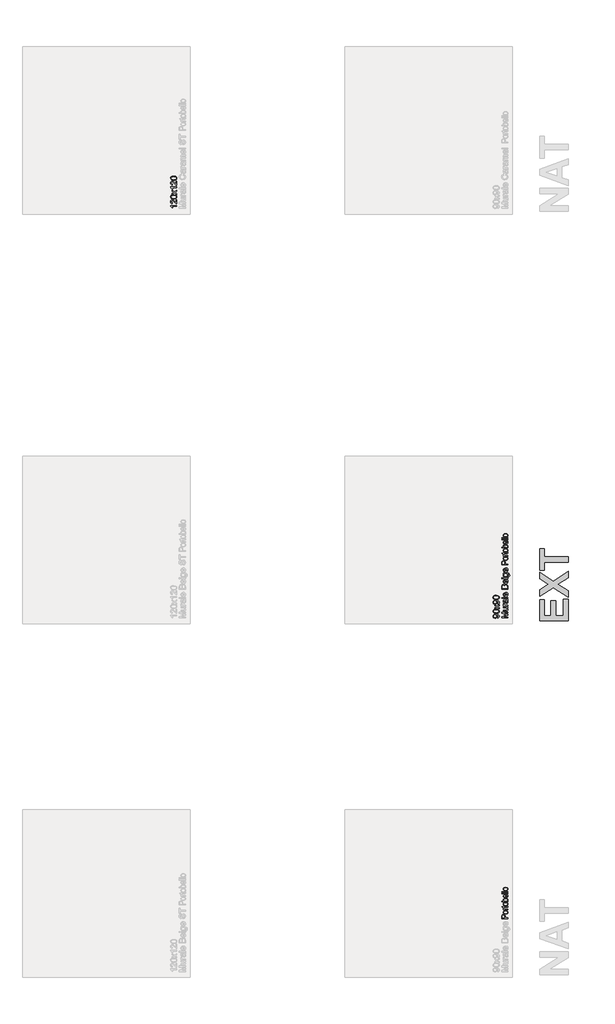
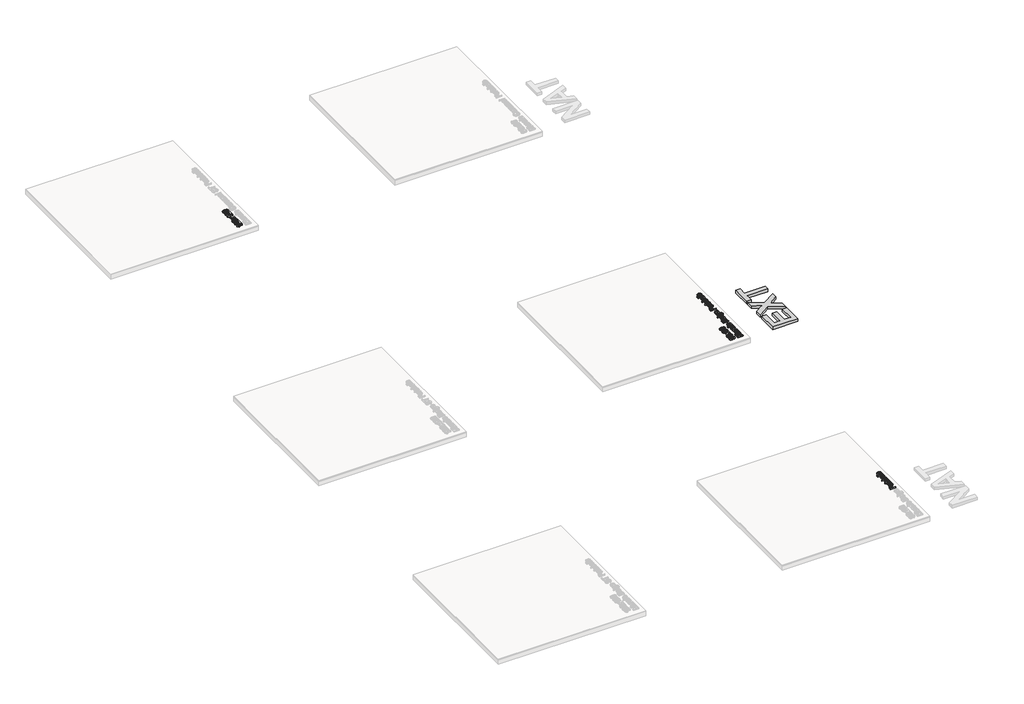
# One storey, part 15 of 21: 6 proxies.
"""IFC4 building model written with IfcOpenShell, lengths in millimetres."""

from ifc_helpers import new_model, si_unit, frame, origin, origin_with_axes, place, context, project, spatial, polyline, outline, extrude, element, save

model = new_model("IFC4")

# Units and contexts
model_context = context("Model", 3, world=origin())
ifc_project = project(units=[si_unit("LENGTHUNIT", "METRE", prefix="MILLI")], contexts=[model_context])

# Site, building, storey
site = spatial("IfcSite", under=ifc_project)
building = spatial("IfcBuilding", under=site)
storey = spatial("IfcBuildingStorey", under=building, Name="PORTOBELLO - SHOWROOM", Elevation=0.0)

# Proxies
placement = place(None, origin())
element("IfcBuildingElementProxy", 1, Name="10mm Arial", ObjectType="10mm Arial", at=placement, inside=storey, context=model_context, shape_type="SweptSolid", body=[
    extrude(outline(polyline([(28359.4625095, 22669.8696803), (28259.0061994, 22669.8696803), (28259.0061994, 22691.4030397), (28329.8112207, 22712.0044314), (28344.6000769, 22716.1737607), (28328.5849474, 22720.6619211), (28259.0061994, 22740.8709053), (28259.0061994, 22762.4778412), (28359.4625095, 22762.4778412), (28359.4625095, 22749.9208024), (28271.5632382, 22749.9208024), (28359.4625095, 22724.6840975), (28359.4625095, 22707.6879494), (28271.5632382, 22682.426719), (28359.4625095, 22682.426719), (28359.4625095, 22669.8696803)])), frame((0.0, 0.0, 18.0), z_axis=(0.0, 0.0, 1.0), x_axis=(1.0, 0.0, 0.0)), (0.0, 0.0, 1.0), 20.0),
    extrude(outline(polyline([(28359.4625095, 22829.9719246), (28346.7828434, 22829.9719246), (28357.4698154, 22820.1372126), (28361.0321394, 22807.3103937), (28358.5305418, 22795.5013816), (28352.2520224, 22787.3589268), (28343.0059216, 22783.6187932), (28331.3317996, 22782.8830292), (28285.6899068, 22782.8830292), (28285.6899068, 22795.4400679), (28325.4211622, 22795.4400679), (28338.2234557, 22796.2003574), (28345.7405111, 22801.1667643), (28348.4751006, 22810.5232297), (28345.6791974, 22821.0078666), (28338.0640401, 22827.9363109), (28324.0722616, 22829.9719246), (28285.6899068, 22829.9719246), (28285.6899068, 22842.5289633), (28359.4625095, 22842.5289633), (28359.4625095, 22829.9719246)])), frame((0.0, 0.0, 18.0), z_axis=(0.0, 0.0, 1.0), x_axis=(1.0, 0.0, 0.0)), (0.0, 0.0, 1.0), 20.0),
    extrude(outline(polyline([(28359.4625095, 22859.7948916), (28285.6899068, 22859.7948916), (28285.6899068, 22870.7823006), (28296.6037393, 22870.7823006), (28286.5482981, 22878.5813989), (28284.1202769, 22886.4295481), (28287.9953006, 22899.0356378), (28299.2524897, 22894.841783), (28296.6773157, 22886.0126152), (28299.1543878, 22878.9124927), (28306.0215184, 22874.3875441), (28320.6877472, 22872.3519304), (28359.4625095, 22872.3519304), (28359.4625095, 22859.7948916)])), frame((0.0, 0.0, 18.0), z_axis=(0.0, 0.0, 1.0), x_axis=(1.0, 0.0, 0.0)), (0.0, 0.0, 1.0), 20.0),
    extrude(outline(polyline([(28350.0447305, 22953.9726824), (28358.5550673, 22941.7957884), (28361.0321394, 22928.3435701), (28359.5422173, 22917.8497362), (28355.0724511, 22910.1088858), (28348.2850282, 22905.335617), (28339.8421365, 22903.7445273), (28329.9093226, 22906.148023), (28322.6988355, 22912.4633306), (28318.5785571, 22921.2557103), (28316.6900962, 22932.1204919), (28312.3736142, 22953.899106), (28309.577711, 22953.9726824), (28300.3070847, 22950.5145916), (28296.6773157, 22936.6331777), (28299.0930741, 22923.9289861), (28307.6647246, 22917.8711959), (28306.0950948, 22905.3141572), (28293.8323616, 22910.746548), (28286.6464, 22921.684906), (28284.1202769, 22938.2518585), (28286.3520944, 22953.4699103), (28291.9561634, 22962.0660863), (28300.478763, 22965.9165845), (28311.4661719, 22966.5297212), (28327.088894, 22966.5297212), (28348.9042963, 22967.1673833), (28359.4625095, 22969.6689809), (28359.4625095, 22957.1119421), (28350.0447305, 22953.9726824)]), holes=[polyline([(28324.9306529, 22953.9726824), (28328.7811511, 22933.7146472), (28330.8167648, 22922.9111793), (28334.1277028, 22918.0183487), (28338.9592197, 22916.3015661), (28345.7527738, 22920.0416997), (28348.4751006, 22931.0168459), (28345.470731, 22943.7210375), (28338.1989302, 22951.9125432), (28328.4868455, 22953.899106), (28324.9306529, 22953.9726824)])]), frame((0.0, 0.0, 18.0), z_axis=(0.0, 0.0, 1.0), x_axis=(1.0, 0.0, 0.0)), (0.0, 0.0, 1.0), 20.0),
    extrude(outline(polyline([(28359.4625095, 22983.7956495), (28259.0061994, 22983.7956495), (28259.0061994, 22996.3526882), (28359.4625095, 22996.3526882), (28359.4625095, 22983.7956495)])), frame((0.0, 0.0, 18.0), z_axis=(0.0, 0.0, 1.0), x_axis=(1.0, 0.0, 0.0)), (0.0, 0.0, 1.0), 20.0),
    extrude(outline(polyline([(28337.4876917, 23066.8388785), (28339.0573215, 23079.1506626), (28348.3340792, 23074.7146189), (28355.2686548, 23067.6359562), (28359.5912682, 23058.07409), (28361.0321394, 23046.1884359), (28358.5458702, 23031.454762), (28351.0870628, 23020.1178651), (28339.140095, 23012.8889839), (28323.1893448, 23010.4793569), (28306.7021001, 23012.9135094), (28294.3719219, 23020.215967), (28286.6831882, 23031.3995797), (28284.1202769, 23045.4771973), (28286.6770568, 23059.1164223), (28294.3473964, 23070.0149264), (28306.6530491, 23077.1610342), (28323.1157684, 23079.5430701), (28326.5002828, 23079.4694937), (28326.5002828, 23023.0363956), (28335.8996677, 23025.2099651), (28342.8097179, 23030.2591455), (28347.0587549, 23037.5462747), (28348.4751006, 23046.4336905), (28345.8508757, 23058.7454746), (28337.4876917, 23066.8388785)]), holes=[polyline([(28313.943244, 23023.0363956), (28313.943244, 23066.9860313), (28302.5634276, 23061.9583107), (28298.1488437, 23054.637459), (28296.6773157, 23045.4281464), (28301.3739425, 23029.9648399), (28306.8645813, 23025.0996005), (28313.943244, 23023.0363956)])]), frame((0.0, 0.0, 18.0), z_axis=(0.0, 0.0, 1.0), x_axis=(1.0, 0.0, 0.0)), (0.0, 0.0, 1.0), 20.0),
    extrude(outline(polyline([(28359.4625095, 23132.9104849), (28259.0061994, 23132.9104849), (28259.0061994, 23171.2437888), (28261.9615181, 23190.0180332), (28271.0482034, 23201.103544), (28283.8995477, 23205.1134578), (28295.6349834, 23201.7412062), (28304.5254649, 23191.5508749), (28313.8941931, 23203.9239727), (28329.5169151, 23208.2527175), (28343.0181843, 23205.2973988), (28352.6321672, 23197.9765471), (28357.7334642, 23187.0504518), (28359.4625095, 23170.9494832), (28359.4625095, 23132.9104849)]), holes=[polyline([(28299.8165754, 23145.4675236), (28299.8165754, 23168.3988347), (28298.7374549, 23181.7897393), (28294.089879, 23189.846355), (28285.910636, 23192.556419), (28277.7191302, 23190.030296), (28272.8753506, 23182.7952834), (28271.5632382, 23166.6575265), (28271.5632382, 23145.4675236), (28299.8165754, 23145.4675236)]), polyline([(28346.9054708, 23145.4675236), (28346.9054708, 23171.2192633), (28346.4149614, 23180.5389405), (28343.6803719, 23188.4238779), (28338.1008283, 23193.6478023), (28329.6395425, 23195.6956787), (28319.8784069, 23193.292183), (28314.0536086, 23185.5053474), (28312.3736142, 23169.99299), (28312.3736142, 23145.4675236), (28346.9054708, 23145.4675236)])]), frame((0.0, 0.0, 18.0), z_axis=(0.0, 0.0, 1.0), x_axis=(1.0, 0.0, 0.0)), (0.0, 0.0, 1.0), 20.0),
    extrude(outline(polyline([(28337.4876917, 23275.5996481), (28339.0573215, 23287.9114322), (28348.3340792, 23283.4753884), (28355.2686548, 23276.3967257), (28359.5912682, 23266.8348595), (28361.0321394, 23254.9492054), (28358.5458702, 23240.2155315), (28351.0870628, 23228.8786347), (28339.140095, 23221.6497535), (28323.1893448, 23219.2401264), (28306.7021001, 23221.6742789), (28294.3719219, 23228.9767365), (28286.6831882, 23240.1603492), (28284.1202769, 23254.2379669), (28286.6770568, 23267.8771918), (28294.3473964, 23278.7756959), (28306.6530491, 23285.9218037), (28323.1157684, 23288.3038396), (28326.5002828, 23288.2302632), (28326.5002828, 23231.7971652), (28335.8996677, 23233.9707346), (28342.8097179, 23239.019915), (28347.0587549, 23246.3070442), (28348.4751006, 23255.1944601), (28345.8508757, 23267.5062442), (28337.4876917, 23275.5996481)]), holes=[polyline([(28313.943244, 23231.7971652), (28313.943244, 23275.7468008), (28302.5634276, 23270.7190802), (28298.1488437, 23263.3982285), (28296.6773157, 23254.1889159), (28301.3739425, 23238.7256094), (28306.8645813, 23233.86037), (28313.943244, 23231.7971652)])]), frame((0.0, 0.0, 18.0), z_axis=(0.0, 0.0, 1.0), x_axis=(1.0, 0.0, 0.0)), (0.0, 0.0, 1.0), 20.0),
    extrude(outline(polyline([(28271.5632382, 23300.8608784), (28259.0061994, 23300.8608784), (28259.0061994, 23313.4179172), (28271.5632382, 23313.4179172), (28271.5632382, 23300.8608784)])), frame((0.0, 0.0, 18.0), z_axis=(0.0, 0.0, 1.0), x_axis=(1.0, 0.0, 0.0)), (0.0, 0.0, 1.0), 20.0),
    extrude(outline(polyline([(28359.4625095, 23300.8608784), (28285.6899068, 23300.8608784), (28285.6899068, 23313.4179172), (28359.4625095, 23313.4179172), (28359.4625095, 23300.8608784)])), frame((0.0, 0.0, 18.0), z_axis=(0.0, 0.0, 1.0), x_axis=(1.0, 0.0, 0.0)), (0.0, 0.0, 1.0), 20.0),
    extrude(outline(polyline([(28365.7410289, 23329.1142156), (28367.3106588, 23341.6712544), (28373.9325347, 23345.7424818), (28376.7284378, 23357.9316386), (28373.5646527, 23370.7829829), (28364.6864339, 23376.9143495), (28350.0447305, 23377.7727408), (28357.1080648, 23368.9313102), (28359.4625095, 23358.1523678), (28356.7217887, 23345.2059872), (28348.4996261, 23335.5521505), (28336.4453594, 23329.546477), (28322.2083262, 23327.5445858), (28302.7473686, 23331.1375666), (28288.9763193, 23341.5363643), (28284.1202769, 23357.5392311), (28286.8671292, 23368.7412379), (28295.1076858, 23377.7727408), (28285.6899068, 23377.7727408), (28285.6899068, 23390.3297796), (28349.3825429, 23390.3297796), (28373.7731191, 23386.8962143), (28385.1161473, 23376.01917), (28389.2854766, 23357.6863839), (28387.8170143, 23346.0030649), (28383.4116274, 23336.8029493), (28376.0570532, 23330.901509), (28365.7410289, 23329.1142156)]), holes=[polyline([(28321.3499348, 23340.1016245), (28332.867707, 23341.4413281), (28340.7863669, 23345.4604389), (28345.3756948, 23351.5029007), (28346.9054708, 23358.9126572), (28345.3848919, 23366.2672314), (28340.8231551, 23372.34035), (28333.0056627, 23376.4146431), (28321.7178168, 23377.7727408), (28310.8315755, 23376.3747893), (28302.9926233, 23372.1809345), (28298.2561426, 23366.0189111), (28296.6773157, 23358.7164535), (28298.2316171, 23351.5458203), (28302.8945214, 23345.5340153), (28310.6169776, 23341.4597222), (28321.3499348, 23340.1016245)])]), frame((0.0, 0.0, 18.0), z_axis=(0.0, 0.0, 1.0), x_axis=(1.0, 0.0, 0.0)), (0.0, 0.0, 1.0), 20.0),
    extrude(outline(polyline([(28337.4876917, 23460.8159699), (28339.0573215, 23473.127754), (28348.3340792, 23468.6917103), (28355.2686548, 23461.6130475), (28359.5912682, 23452.0511814), (28361.0321394, 23440.1655272), (28358.5458702, 23425.4318533), (28351.0870628, 23414.0949565), (28339.140095, 23406.8660753), (28323.1893448, 23404.4564482), (28306.7021001, 23406.8906008), (28294.3719219, 23414.1930584), (28286.6831882, 23425.376671), (28284.1202769, 23439.4542887), (28286.6770568, 23453.0935137), (28294.3473964, 23463.9920178), (28306.6530491, 23471.1381255), (28323.1157684, 23473.5201615), (28326.5002828, 23473.4465851), (28326.5002828, 23417.013487), (28335.8996677, 23419.1870565), (28342.8097179, 23424.2362368), (28347.0587549, 23431.523366), (28348.4751006, 23440.4107819), (28345.8508757, 23452.722566), (28337.4876917, 23460.8159699)]), holes=[polyline([(28313.943244, 23417.013487), (28313.943244, 23460.9631227), (28302.5634276, 23455.9354021), (28298.1488437, 23448.6145504), (28296.6773157, 23439.4052378), (28301.3739425, 23423.9419312), (28306.8645813, 23419.0766919), (28313.943244, 23417.013487)])]), frame((0.0, 0.0, 18.0), z_axis=(0.0, 0.0, 1.0), x_axis=(1.0, 0.0, 0.0)), (0.0, 0.0, 1.0), 20.0),
])
element("IfcBuildingElementProxy", 2, Name="10mm Arial", ObjectType="10mm Arial", at=placement, inside=storey, context=model_context, shape_type="SweptSolid", body=[
    extrude(outline(polyline([(28194.348432, 22666.7304206), (28192.7788021, 22679.2874593), (28204.7594925, 22684.9283166), (28208.4751006, 22695.6214199), (28206.0838676, 22705.7872257), (28199.6949837, 22712.6788818), (28188.7811511, 22716.7868974), (28174.2130241, 22718.6017819), (28171.7604775, 22718.5282055), (28181.2763584, 22708.485027), (28184.9306529, 22694.7139777), (28182.6988355, 22683.2636506), (28176.0033832, 22673.7324412), (28165.6597677, 22667.3037033), (28152.4834609, 22665.1607907), (28138.8718271, 22667.4079366), (28128.2032493, 22674.1493741), (28121.3054619, 22684.2753261), (28119.0061994, 22696.676015), (28124.2546492, 22714.5673427), (28139.2151837, 22726.8791268), (28167.3213681, 22731.0852443), (28197.8187855, 22726.8913895), (28207.8098473, 22721.6766622), (28215.0969765, 22714.4201899), (28219.5483487, 22705.4346721), (28221.0321394, 22695.0328087), (28219.2816342, 22684.2967858), (28214.0301187, 22675.7312667), (28205.6086867, 22669.7409216), (28194.348432, 22666.7304206)]), holes=[polyline([(28152.1891553, 22718.5282055), (28143.6788185, 22717.1731735), (28137.130519, 22713.1080774), (28132.9550584, 22706.7989012), (28131.5632382, 22698.7116287), (28133.0623573, 22690.3239192), (28137.5597147, 22683.6039414), (28144.4421737, 22679.1893575), (28153.0965976, 22677.7178295), (28160.855842, 22679.1096497), (28167.0147998, 22683.2851103), (28171.0339106, 22689.8395412), (28172.3736142, 22698.3682722), (28167.0147998, 22712.85056), (28160.6289815, 22717.1087941), (28152.1891553, 22718.5282055)])]), frame((0.0, 0.0, 18.0), z_axis=(0.0, 0.0, 1.0), x_axis=(1.0, 0.0, 0.0)), (0.0, 0.0, 1.0), 20.0),
    extrude(outline(polyline([(28170.0436948, 22742.0726532), (28141.1404328, 22745.7637359), (28124.4753784, 22756.7266193), (28119.0061994, 22775.0348799), (28122.2435609, 22789.7011088), (28131.5755009, 22799.8301264), (28146.4379335, 22805.7162383), (28170.0436948, 22807.9971067), (28198.8243296, 22804.3428122), (28215.5261722, 22793.416717), (28219.6556476, 22785.1853573), (28221.0321394, 22775.0348799), (28218.6409064, 22761.9873319), (28211.4672075, 22752.0790434), (28194.4771907, 22744.5742507), (28170.0436948, 22742.0726532)]), holes=[polyline([(28170.0191694, 22754.6296919), (28189.7713668, 22756.1012199), (28201.2032998, 22760.5158039), (28206.6571504, 22767.0886289), (28208.4751006, 22775.0348799), (28206.6510191, 22782.981131), (28201.1787744, 22789.553956), (28189.74071, 22793.96854), (28170.0191694, 22795.4400679), (28150.711496, 22794.0175909), (28139.1906582, 22789.7501598), (28133.4700932, 22783.1895975), (28131.5632382, 22774.8877271), (28133.2432326, 22767.0273152), (28138.2832159, 22760.7120076), (28150.5214236, 22756.1502709), (28170.0191694, 22754.6296919)])]), frame((0.0, 0.0, 18.0), z_axis=(0.0, 0.0, 1.0), x_axis=(1.0, 0.0, 0.0)), (0.0, 0.0, 1.0), 20.0),
    extrude(outline(polyline([(28219.4625095, 22814.2756261), (28182.355479, 22841.1064863), (28145.6899068, 22815.8452559), (28145.6899068, 22830.9038923), (28163.372768, 22843.0930491), (28171.6869011, 22848.8074827), (28164.8688214, 22853.7616269), (28145.6899068, 22867.6430409), (28145.6899068, 22882.7507281), (28182.3800044, 22856.2141735), (28219.4625095, 22881.7697095), (28219.4625095, 22866.6865477), (28197.1443352, 22851.2845548), (28193.0485823, 22848.4886516), (28219.4625095, 22829.3833134), (28219.4625095, 22814.2756261)])), frame((0.0, 0.0, 18.0), z_axis=(0.0, 0.0, 1.0), x_axis=(1.0, 0.0, 0.0)), (0.0, 0.0, 1.0), 20.0),
    extrude(outline(polyline([(28194.348432, 22891.1874886), (28192.7788021, 22903.7445273), (28204.7594925, 22909.3853846), (28208.4751006, 22920.0784879), (28206.0838676, 22930.2442937), (28199.6949837, 22937.1359498), (28188.7811511, 22941.2439654), (28174.2130241, 22943.0588499), (28171.7604775, 22942.9852735), (28181.2763584, 22932.942095), (28184.9306529, 22919.1710457), (28182.6988355, 22907.7207186), (28176.0033832, 22898.1895092), (28165.6597677, 22891.7607713), (28152.4834609, 22889.6178587), (28138.8718271, 22891.8650046), (28128.2032493, 22898.6064421), (28121.3054619, 22908.732394), (28119.0061994, 22921.133083), (28124.2546492, 22939.0244107), (28139.2151837, 22951.3361948), (28167.3213681, 22955.5423122), (28197.8187855, 22951.3484575), (28207.8098473, 22946.1337302), (28215.0969765, 22938.8772579), (28219.5483487, 22929.8917401), (28221.0321394, 22919.4898767), (28219.2816342, 22908.7538538), (28214.0301187, 22900.1883347), (28205.6086867, 22894.1979896), (28194.348432, 22891.1874886)]), holes=[polyline([(28152.1891553, 22942.9852735), (28143.6788185, 22941.6302415), (28137.130519, 22937.5651454), (28132.9550584, 22931.2559692), (28131.5632382, 22923.1686967), (28133.0623573, 22914.7809872), (28137.5597147, 22908.0610094), (28144.4421737, 22903.6464255), (28153.0965976, 22902.1748975), (28160.855842, 22903.5667177), (28167.0147998, 22907.7421783), (28171.0339106, 22914.2966092), (28172.3736142, 22922.8253401), (28167.0147998, 22937.307628), (28160.6289815, 22941.5658621), (28152.1891553, 22942.9852735)])]), frame((0.0, 0.0, 18.0), z_axis=(0.0, 0.0, 1.0), x_axis=(1.0, 0.0, 0.0)), (0.0, 0.0, 1.0), 20.0),
    extrude(outline(polyline([(28170.0436948, 22966.5297212), (28141.1404328, 22970.2208039), (28124.4753784, 22981.1836873), (28119.0061994, 22999.4919479), (28122.2435609, 23014.1581768), (28131.5755009, 23024.2871944), (28146.4379335, 23030.1733063), (28170.0436948, 23032.4541747), (28198.8243296, 23028.7998802), (28215.5261722, 23017.873785), (28219.6556476, 23009.6424253), (28221.0321394, 22999.4919479), (28218.6409064, 22986.4443998), (28211.4672075, 22976.5361114), (28194.4771907, 22969.0313187), (28170.0436948, 22966.5297212)]), holes=[polyline([(28170.0191694, 22979.0867599), (28189.7713668, 22980.5582879), (28201.2032998, 22984.9728719), (28206.6571504, 22991.5456968), (28208.4751006, 22999.4919479), (28206.6510191, 23007.438199), (28201.1787744, 23014.011024), (28189.74071, 23018.425608), (28170.0191694, 23019.8971359), (28150.711496, 23018.4746589), (28139.1906582, 23014.2072277), (28133.4700932, 23007.6466655), (28131.5632382, 22999.3447951), (28133.2432326, 22991.4843832), (28138.2832159, 22985.1690756), (28150.5214236, 22980.6073389), (28170.0191694, 22979.0867599)])]), frame((0.0, 0.0, 18.0), z_axis=(0.0, 0.0, 1.0), x_axis=(1.0, 0.0, 0.0)), (0.0, 0.0, 1.0), 20.0),
])
element("IfcBuildingElementProxy", 3, Name="10mm Arial", ObjectType="10mm Arial", at=placement, inside=storey, context=model_context, shape_type="SweptSolid", body=[
    extrude(outline(polyline([(23019.4374935, 29312.2496861), (23019.4374935, 29299.6926473), (22941.1522049, 29299.6926473), (22949.6257535, 29287.7977962), (22955.9655865, 29274.5785698), (22944.0952608, 29274.5785698), (22932.3475625, 29292.9849323), (22918.9811833, 29304.1562822), (22918.9811833, 29312.2496861), (23019.4374935, 29312.2496861)])), frame((0.0, 0.0, 17.0), z_axis=(0.0, 0.0, 1.0), x_axis=(1.0, 0.0, 0.0)), (0.0, 0.0, 1.0), 20.0),
    extrude(outline(polyline([(23006.8804547, 29406.4274769), (23019.4374935, 29406.4274769), (23019.4374935, 29340.5030233), (23010.7800038, 29341.851924), (22997.4504129, 29349.4916067), (22982.8945486, 29365.2246934), (22961.9743258, 29386.8929429), (22947.7495553, 29392.3008083), (22936.2348489, 29387.1872485), (22931.5382221, 29373.8331321), (22936.1244843, 29359.9149299), (22948.8041504, 29354.6296919), (22947.2345205, 29342.0726532), (22935.0882833, 29345.1168767), (22926.2161959, 29351.6988987), (22920.7899364, 29361.4753627), (22918.9811833, 29374.1029122), (22920.9922715, 29386.8224322), (22927.0255363, 29396.5805021), (22936.0386451, 29402.7885108), (22946.9892659, 29404.857847), (22958.8963798, 29402.6260296), (22971.2081639, 29395.207076), (22988.4127785, 29377.2176465), (23000.4915707, 29362.7721468), (23006.8804547, 29357.106764), (23006.8804547, 29406.4274769)])), frame((0.0, 0.0, 17.0), z_axis=(0.0, 0.0, 1.0), x_axis=(1.0, 0.0, 0.0)), (0.0, 0.0, 1.0), 20.0),
    extrude(outline(polyline([(22970.0186788, 29418.9845156), (22941.1154167, 29422.6755983), (22924.4503623, 29433.6384818), (22918.9811833, 29451.9467424), (22922.2185449, 29466.6129713), (22931.5504848, 29476.7419889), (22946.4129174, 29482.6281008), (22970.0186788, 29484.9089692), (22998.7993135, 29481.2546747), (23015.5011561, 29470.3285794), (23019.6306315, 29462.0972198), (23021.0071233, 29451.9467424), (23018.6158903, 29438.8991943), (23011.4421914, 29428.9909059), (22994.4521746, 29421.4861132), (22970.0186788, 29418.9845156)]), holes=[polyline([(22969.9941533, 29431.5415544), (22989.7463508, 29433.0130824), (23001.1782838, 29437.4276663), (23006.6321343, 29444.0004913), (23008.4500845, 29451.9467424), (23006.626003, 29459.8929935), (23001.1537583, 29466.4658185), (22989.7156939, 29470.8804024), (22969.9941533, 29472.3519304), (22950.6864799, 29470.9294534), (22939.1656421, 29466.6620222), (22933.4450771, 29460.10146), (22931.5382221, 29451.7995896), (22933.2182165, 29443.9391776), (22938.2581998, 29437.6238701), (22950.4964076, 29433.0621333), (22969.9941533, 29431.5415544)])]), frame((0.0, 0.0, 17.0), z_axis=(0.0, 0.0, 1.0), x_axis=(1.0, 0.0, 0.0)), (0.0, 0.0, 1.0), 20.0),
    extrude(outline(polyline([(23019.4374935, 29491.1874886), (22982.3304629, 29518.0183487), (22945.6648907, 29492.7571184), (22945.6648907, 29507.8157547), (22963.3477519, 29520.0049115), (22971.661885, 29525.7193452), (22964.8438054, 29530.6734894), (22945.6648907, 29544.5549033), (22945.6648907, 29559.6625906), (22982.3549883, 29533.126036), (23019.4374935, 29558.6815719), (23019.4374935, 29543.5984101), (22997.1193191, 29528.1964173), (22993.0235662, 29525.4005141), (23019.4374935, 29506.2951758), (23019.4374935, 29491.1874886)])), frame((0.0, 0.0, 17.0), z_axis=(0.0, 0.0, 1.0), x_axis=(1.0, 0.0, 0.0)), (0.0, 0.0, 1.0), 20.0),
    extrude(outline(polyline([(23019.4374935, 29613.6186166), (23019.4374935, 29601.0615778), (22941.1522049, 29601.0615778), (22949.6257535, 29589.1667266), (22955.9655865, 29575.9475002), (22944.0952608, 29575.9475002), (22932.3475625, 29594.3538627), (22918.9811833, 29605.5252127), (22918.9811833, 29613.6186166), (23019.4374935, 29613.6186166)])), frame((0.0, 0.0, 17.0), z_axis=(0.0, 0.0, 1.0), x_axis=(1.0, 0.0, 0.0)), (0.0, 0.0, 1.0), 20.0),
    extrude(outline(polyline([(23006.8804547, 29707.7964073), (23019.4374935, 29707.7964073), (23019.4374935, 29641.8719538), (23010.7800038, 29643.2208544), (22997.4504129, 29650.8605372), (22982.8945486, 29666.5936239), (22961.9743258, 29688.2618734), (22947.7495553, 29693.6697387), (22936.2348489, 29688.556179), (22931.5382221, 29675.2020625), (22936.1244843, 29661.2838604), (22948.8041504, 29655.9986224), (22947.2345205, 29643.4415836), (22935.0882833, 29646.4858071), (22926.2161959, 29653.0678292), (22920.7899364, 29662.8442932), (22918.9811833, 29675.4718427), (22920.9922715, 29688.1913627), (22927.0255363, 29697.9494326), (22936.0386451, 29704.1574412), (22946.9892659, 29706.2267775), (22958.8963798, 29703.99496), (22971.2081639, 29696.5760065), (22988.4127785, 29678.5865769), (23000.4915707, 29664.1410772), (23006.8804547, 29658.4756945), (23006.8804547, 29707.7964073)])), frame((0.0, 0.0, 17.0), z_axis=(0.0, 0.0, 1.0), x_axis=(1.0, 0.0, 0.0)), (0.0, 0.0, 1.0), 20.0),
    extrude(outline(polyline([(22970.0186788, 29720.3534461), (22941.1154167, 29724.0445288), (22924.4503623, 29735.0074122), (22918.9811833, 29753.3156729), (22922.2185449, 29767.9819017), (22931.5504848, 29778.1109193), (22946.4129174, 29783.9970313), (22970.0186788, 29786.2778996), (22998.7993135, 29782.6236051), (23015.5011561, 29771.6975099), (23019.6306315, 29763.4661502), (23021.0071233, 29753.3156729), (23018.6158903, 29740.2681248), (23011.4421914, 29730.3598364), (22994.4521746, 29722.8550437), (22970.0186788, 29720.3534461)]), holes=[polyline([(22969.9941533, 29732.9104849), (22989.7463508, 29734.3820128), (23001.1782838, 29738.7965968), (23006.6321343, 29745.3694218), (23008.4500845, 29753.3156729), (23006.626003, 29761.2619239), (23001.1537583, 29767.8347489), (22989.7156939, 29772.2493329), (22969.9941533, 29773.7208609), (22950.6864799, 29772.2983838), (22939.1656421, 29768.0309527), (22933.4450771, 29761.4703904), (22931.5382221, 29753.1685201), (22933.2182165, 29745.3081081), (22938.2581998, 29738.9928005), (22950.4964076, 29734.4310638), (22969.9941533, 29732.9104849)])]), frame((0.0, 0.0, 17.0), z_axis=(0.0, 0.0, 1.0), x_axis=(1.0, 0.0, 0.0)), (0.0, 0.0, 1.0), 20.0),
])
element("IfcBuildingElementProxy", 4, Name="10mm Arial Narrow", ObjectType="10mm Arial Narrow", at=placement, inside=storey, context=model_context, shape_type="SweptSolid", body=[
    extrude(outline(polyline([(28359.4625095, 17824.588476), (28258.7439058, 17824.588476), (28258.7439058, 17855.8853607), (28260.6222265, 17872.1810622), (28270.1026697, 17883.6540483), (28287.1217785, 17887.9437267), (28299.197604, 17886.1574183), (28308.8239978, 17880.7984931), (28315.1252562, 17871.0547043), (28317.2256757, 17856.1138051), (28317.2256757, 17834.3354376), (28359.4625095, 17834.3354376), (28359.4625095, 17824.588476)]), holes=[polyline([(28305.8542204, 17834.3354376), (28305.8542204, 17857.3067926), (28301.3234062, 17873.170988), (28287.6548155, 17878.1967651), (28277.4890391, 17875.7219506), (28271.6890892, 17869.7443218), (28270.115361, 17857.0783482), (28270.115361, 17834.3354376), (28305.8542204, 17834.3354376)])]), frame((0.0, 0.0, 18.0), z_axis=(0.0, 0.0, 1.0), x_axis=(1.0, 0.0, 0.0)), (0.0, 0.0, 1.0), 20.0),
    extrude(outline(polyline([(28322.9114033, 17896.0661948), (28306.3206278, 17898.0206637), (28294.368543, 17903.8840703), (28287.1439884, 17912.742637), (28284.7358035, 17923.6825861), (28287.1439884, 17934.4956217), (28294.368543, 17943.3795711), (28306.1302574, 17949.3191259), (28322.149922, 17951.2989775), (28339.3118085, 17949.3540271), (28351.4542637, 17943.5191761), (28358.6788183, 17934.6701279), (28361.0870031, 17923.6825861), (28358.6724726, 17912.821958), (28351.428881, 17903.9475271), (28339.4704505, 17898.0365278), (28322.9114033, 17896.0661948)]), holes=[polyline([(28322.8860206, 17905.8131564), (28335.437772, 17907.1171933), (28344.3090301, 17911.0293039), (28349.5822886, 17916.8705006), (28351.3400415, 17923.961796), (28349.5664244, 17930.6818691), (28344.2455733, 17936.3739424), (28335.358451, 17940.2574975), (28322.8860206, 17941.5520158), (28310.3723433, 17940.247979), (28301.5137766, 17936.3358684), (28296.240518, 17930.4946716), (28294.4827652, 17923.4033763), (28296.2500365, 17916.6357105), (28301.5518506, 17910.9531557), (28310.4199359, 17907.0981563), (28322.8860206, 17905.8131564)])]), frame((0.0, 0.0, 18.0), z_axis=(0.0, 0.0, 1.0), x_axis=(1.0, 0.0, 0.0)), (0.0, 0.0, 1.0), 20.0),
    extrude(outline(polyline([(28351.3400415, 18022.7766963), (28361.0870031, 18024.4011899), (28361.0870031, 18017.0402032), (28358.9675466, 18008.7654389), (28353.1675968, 18004.4503777), (28338.5217716, 18003.282773), (28296.1072588, 18003.282773), (28296.1072588, 17995.1603049), (28292.8582716, 17995.1603049), (28297.7317524, 17993.5358113), (28296.1072588, 17985.9717629), (28298.429777, 17979.8926033), (28304.9150601, 17976.0217396), (28320.3223666, 17974.041888), (28359.4625095, 17974.041888), (28359.4625095, 17964.2949264), (28286.3602971, 17964.2949264), (28286.3602971, 17974.041888), (28296.0564934, 17974.041888), (28286.9694822, 17980.2860353), (28284.7358035, 17986.6824789), (28286.3602971, 17995.1603049), (28286.3602971, 18003.282773), (28270.115361, 18003.282773), (28261.992893, 18013.0297346), (28286.3602971, 18013.0297346), (28286.3602971, 18022.7766963), (28296.1072588, 18022.7766963), (28296.1072588, 18013.0297346), (28340.7554503, 18013.0297346), (28348.7510048, 18013.8927468), (28351.3400415, 18018.5124006), (28351.3400415, 18022.7766963)])), frame((0.0, 0.0, 18.0), z_axis=(0.0, 0.0, 1.0), x_axis=(1.0, 0.0, 0.0)), (0.0, 0.0, 1.0), 20.0),
    extrude(outline(polyline([(28322.9114033, 18029.2746707), (28306.3206278, 18031.2291396), (28294.368543, 18037.0925462), (28287.1439884, 18045.9511129), (28284.7358035, 18056.8910621), (28287.1439884, 18067.7040976), (28294.368543, 18076.5880471), (28306.1302574, 18082.5276018), (28322.149922, 18084.5074534), (28339.3118085, 18082.5625031), (28351.4542637, 18076.727652), (28358.6788183, 18067.8786038), (28361.0870031, 18056.8910621), (28358.6724726, 18046.0304339), (28351.428881, 18037.156003), (28339.4704505, 18031.2450038), (28322.9114033, 18029.2746707)]), holes=[polyline([(28322.8860206, 18039.0216324), (28335.437772, 18040.3256692), (28344.3090301, 18044.2377798), (28349.5822886, 18050.0789766), (28351.3400415, 18057.1702719), (28349.5664244, 18063.8903451), (28344.2455733, 18069.5824184), (28335.358451, 18073.4659734), (28322.8860206, 18074.7604918), (28310.3723433, 18073.4564549), (28301.5137766, 18069.5443443), (28296.240518, 18063.7031476), (28294.4827652, 18056.6118522), (28296.2500365, 18049.8441865), (28301.5518506, 18044.1616317), (28310.4199359, 18040.3066322), (28322.8860206, 18039.0216324)])]), frame((0.0, 0.0, 18.0), z_axis=(0.0, 0.0, 1.0), x_axis=(1.0, 0.0, 0.0)), (0.0, 0.0, 1.0), 20.0),
    extrude(outline(polyline([(28359.4625095, 18107.2503639), (28359.4625095, 18097.5034023), (28258.7439058, 18097.5034023), (28258.7439058, 18107.2503639), (28294.1527899, 18107.2503639), (28287.0710131, 18114.6494247), (28284.7358035, 18123.850658), (28288.9366425, 18136.7323847), (28301.6660729, 18146.0097661), (28322.3529837, 18149.4871978), (28338.8073271, 18147.5549388), (28351.0100662, 18141.7581618), (28358.5677689, 18133.3850394), (28361.0870031, 18123.7237444), (28358.4725837, 18114.3829062), (28350.7054737, 18107.2503639), (28359.4625095, 18107.2503639)]), holes=[polyline([(28322.3529837, 18107.2503639), (28339.6005369, 18109.3317464), (28348.33219, 18115.2205357), (28351.3400415, 18123.672979), (28349.5505602, 18129.6157066), (28344.1821165, 18134.8540639), (28322.7591071, 18139.7402361), (28301.3234062, 18135.0317429), (28296.1929254, 18129.7870399), (28294.4827652, 18123.4699173), (28296.2722464, 18117.4922885), (28301.6406901, 18112.1999929), (28322.3529837, 18107.2503639)])]), frame((0.0, 0.0, 18.0), z_axis=(0.0, 0.0, 1.0), x_axis=(1.0, 0.0, 0.0)), (0.0, 0.0, 1.0), 20.0),
    extrude(outline(polyline([(28336.719599, 18201.4709933), (28338.3440926, 18211.2179549), (28348.2306592, 18207.5184245), (28355.3505101, 18201.6994377), (28359.6528799, 18193.9957844), (28361.0870031, 18184.6422548), (28358.6724726, 18173.0487008), (28351.428881, 18163.9045785), (28339.6227468, 18157.9650238), (28323.5205884, 18155.9851722), (28306.8536647, 18157.9745423), (28294.6731355, 18163.9426526), (28287.2201365, 18172.9566884), (28284.7358035, 18184.0838351), (28287.1344699, 18194.7667843), (28294.3304689, 18203.5143016), (28306.0699735, 18209.3491527), (28322.0991565, 18211.294103), (28325.3481437, 18211.2179549), (28325.3481437, 18165.7321339), (28344.7913016, 18171.7351454), (28349.7028565, 18177.6651816), (28351.3400415, 18184.7691683), (28347.6849309, 18194.9476361), (28336.719599, 18201.4709933)]), holes=[polyline([(28315.6011821, 18166.3920844), (28315.6011821, 18201.4709933), (28301.3360976, 18197.2066975), (28296.1960983, 18191.381365), (28294.4827652, 18184.1599832), (28300.1938755, 18171.9508985), (28315.6011821, 18166.3920844)])]), frame((0.0, 0.0, 18.0), z_axis=(0.0, 0.0, 1.0), x_axis=(1.0, 0.0, 0.0)), (0.0, 0.0, 1.0), 20.0),
    extrude(outline(polyline([(28359.4625095, 18224.2139038), (28258.7439058, 18224.2139038), (28258.7439058, 18233.9608654), (28359.4625095, 18233.9608654), (28359.4625095, 18224.2139038)])), frame((0.0, 0.0, 18.0), z_axis=(0.0, 0.0, 1.0), x_axis=(1.0, 0.0, 0.0)), (0.0, 0.0, 1.0), 20.0),
    extrude(outline(polyline([(28359.4625095, 18250.2058015), (28258.7439058, 18250.2058015), (28258.7439058, 18259.9527632), (28359.4625095, 18259.9527632), (28359.4625095, 18250.2058015)])), frame((0.0, 0.0, 18.0), z_axis=(0.0, 0.0, 1.0), x_axis=(1.0, 0.0, 0.0)), (0.0, 0.0, 1.0), 20.0),
    extrude(outline(polyline([(28322.9114033, 18271.3242184), (28306.3206278, 18273.2786873), (28294.368543, 18279.1420939), (28287.1439884, 18288.0006606), (28284.7358035, 18298.9406098), (28287.1439884, 18309.7536454), (28294.368543, 18318.6375948), (28306.1302574, 18324.5771496), (28322.149922, 18326.5570011), (28339.3118085, 18324.6120508), (28351.4542637, 18318.7771997), (28358.6788183, 18309.9281515), (28361.0870031, 18298.9406098), (28358.6724726, 18288.0799816), (28351.428881, 18279.2055507), (28339.4704505, 18273.2945515), (28322.9114033, 18271.3242184)]), holes=[polyline([(28322.8860206, 18281.0711801), (28335.437772, 18282.375217), (28344.3090301, 18286.2873275), (28349.5822886, 18292.1285243), (28351.3400415, 18299.2198196), (28349.5664244, 18305.9398928), (28344.2455733, 18311.6319661), (28335.358451, 18315.5155211), (28322.8860206, 18316.8100395), (28310.3723433, 18315.5060026), (28301.5137766, 18311.593892), (28296.240518, 18305.7526953), (28294.4827652, 18298.6614), (28296.2500365, 18291.8937342), (28301.5518506, 18286.2111794), (28310.4199359, 18282.3561799), (28322.8860206, 18281.0711801)])]), frame((0.0, 0.0, 18.0), z_axis=(0.0, 0.0, 1.0), x_axis=(1.0, 0.0, 0.0)), (0.0, 0.0, 1.0), 20.0),
])
element("IfcBuildingElementProxy", 5, Name="10mm Arial Narrow", ObjectType="10mm Arial Narrow", at=placement, inside=storey, context=model_context, shape_type="SweptSolid", body=[
    extrude(outline(polyline([(28359.4625095, 23524.588476), (28258.7439058, 23524.588476), (28258.7439058, 23555.8853607), (28260.6222265, 23572.1810622), (28270.1026697, 23583.6540483), (28287.1217785, 23587.9437267), (28299.197604, 23586.1574183), (28308.8239978, 23580.7984931), (28315.1252562, 23571.0547043), (28317.2256757, 23556.1138051), (28317.2256757, 23534.3354376), (28359.4625095, 23534.3354376), (28359.4625095, 23524.588476)]), holes=[polyline([(28305.8542204, 23534.3354376), (28305.8542204, 23557.3067926), (28301.3234062, 23573.170988), (28287.6548155, 23578.1967651), (28277.4890391, 23575.7219506), (28271.6890892, 23569.7443218), (28270.115361, 23557.0783482), (28270.115361, 23534.3354376), (28305.8542204, 23534.3354376)])]), frame((0.0, 0.0, 18.0), z_axis=(0.0, 0.0, 1.0), x_axis=(1.0, 0.0, 0.0)), (0.0, 0.0, 1.0), 20.0),
    extrude(outline(polyline([(28322.9114033, 23596.0661948), (28306.3206278, 23598.0206637), (28294.368543, 23603.8840703), (28287.1439884, 23612.742637), (28284.7358035, 23623.6825861), (28287.1439884, 23634.4956217), (28294.368543, 23643.3795711), (28306.1302574, 23649.3191259), (28322.149922, 23651.2989775), (28339.3118085, 23649.3540271), (28351.4542637, 23643.5191761), (28358.6788183, 23634.6701279), (28361.0870031, 23623.6825861), (28358.6724726, 23612.821958), (28351.428881, 23603.9475271), (28339.4704505, 23598.0365278), (28322.9114033, 23596.0661948)]), holes=[polyline([(28322.8860206, 23605.8131564), (28335.437772, 23607.1171933), (28344.3090301, 23611.0293039), (28349.5822886, 23616.8705006), (28351.3400415, 23623.961796), (28349.5664244, 23630.6818691), (28344.2455733, 23636.3739424), (28335.358451, 23640.2574975), (28322.8860206, 23641.5520158), (28310.3723433, 23640.247979), (28301.5137766, 23636.3358684), (28296.240518, 23630.4946716), (28294.4827652, 23623.4033763), (28296.2500365, 23616.6357105), (28301.5518506, 23610.9531557), (28310.4199359, 23607.0981563), (28322.8860206, 23605.8131564)])]), frame((0.0, 0.0, 18.0), z_axis=(0.0, 0.0, 1.0), x_axis=(1.0, 0.0, 0.0)), (0.0, 0.0, 1.0), 20.0),
    extrude(outline(polyline([(28351.3400415, 23722.7766963), (28361.0870031, 23724.4011899), (28361.0870031, 23717.0402032), (28358.9675466, 23708.7654389), (28353.1675968, 23704.4503777), (28338.5217716, 23703.282773), (28296.1072588, 23703.282773), (28296.1072588, 23695.1603049), (28292.8582716, 23695.1603049), (28297.7317524, 23693.5358113), (28296.1072588, 23685.9717629), (28298.429777, 23679.8926033), (28304.9150601, 23676.0217396), (28320.3223666, 23674.041888), (28359.4625095, 23674.041888), (28359.4625095, 23664.2949264), (28286.3602971, 23664.2949264), (28286.3602971, 23674.041888), (28296.0564934, 23674.041888), (28286.9694822, 23680.2860353), (28284.7358035, 23686.6824789), (28286.3602971, 23695.1603049), (28286.3602971, 23703.282773), (28270.115361, 23703.282773), (28261.992893, 23713.0297346), (28286.3602971, 23713.0297346), (28286.3602971, 23722.7766963), (28296.1072588, 23722.7766963), (28296.1072588, 23713.0297346), (28340.7554503, 23713.0297346), (28348.7510048, 23713.8927468), (28351.3400415, 23718.5124006), (28351.3400415, 23722.7766963)])), frame((0.0, 0.0, 18.0), z_axis=(0.0, 0.0, 1.0), x_axis=(1.0, 0.0, 0.0)), (0.0, 0.0, 1.0), 20.0),
    extrude(outline(polyline([(28322.9114033, 23729.2746707), (28306.3206278, 23731.2291396), (28294.368543, 23737.0925462), (28287.1439884, 23745.9511129), (28284.7358035, 23756.8910621), (28287.1439884, 23767.7040976), (28294.368543, 23776.5880471), (28306.1302574, 23782.5276018), (28322.149922, 23784.5074534), (28339.3118085, 23782.5625031), (28351.4542637, 23776.727652), (28358.6788183, 23767.8786038), (28361.0870031, 23756.8910621), (28358.6724726, 23746.0304339), (28351.428881, 23737.156003), (28339.4704505, 23731.2450038), (28322.9114033, 23729.2746707)]), holes=[polyline([(28322.8860206, 23739.0216324), (28335.437772, 23740.3256692), (28344.3090301, 23744.2377798), (28349.5822886, 23750.0789766), (28351.3400415, 23757.1702719), (28349.5664244, 23763.8903451), (28344.2455733, 23769.5824184), (28335.358451, 23773.4659734), (28322.8860206, 23774.7604918), (28310.3723433, 23773.4564549), (28301.5137766, 23769.5443443), (28296.240518, 23763.7031476), (28294.4827652, 23756.6118522), (28296.2500365, 23749.8441865), (28301.5518506, 23744.1616317), (28310.4199359, 23740.3066322), (28322.8860206, 23739.0216324)])]), frame((0.0, 0.0, 18.0), z_axis=(0.0, 0.0, 1.0), x_axis=(1.0, 0.0, 0.0)), (0.0, 0.0, 1.0), 20.0),
    extrude(outline(polyline([(28359.4625095, 23807.2503639), (28359.4625095, 23797.5034023), (28258.7439058, 23797.5034023), (28258.7439058, 23807.2503639), (28294.1527899, 23807.2503639), (28287.0710131, 23814.6494247), (28284.7358035, 23823.850658), (28288.9366425, 23836.7323847), (28301.6660729, 23846.0097661), (28322.3529837, 23849.4871978), (28338.8073271, 23847.5549388), (28351.0100662, 23841.7581618), (28358.5677689, 23833.3850394), (28361.0870031, 23823.7237444), (28358.4725837, 23814.3829062), (28350.7054737, 23807.2503639), (28359.4625095, 23807.2503639)]), holes=[polyline([(28322.3529837, 23807.2503639), (28339.6005369, 23809.3317464), (28348.33219, 23815.2205357), (28351.3400415, 23823.672979), (28349.5505602, 23829.6157066), (28344.1821165, 23834.8540639), (28322.7591071, 23839.7402361), (28301.3234062, 23835.0317429), (28296.1929254, 23829.7870399), (28294.4827652, 23823.4699173), (28296.2722464, 23817.4922885), (28301.6406901, 23812.1999929), (28322.3529837, 23807.2503639)])]), frame((0.0, 0.0, 18.0), z_axis=(0.0, 0.0, 1.0), x_axis=(1.0, 0.0, 0.0)), (0.0, 0.0, 1.0), 20.0),
    extrude(outline(polyline([(28336.719599, 23901.4709933), (28338.3440926, 23911.2179549), (28348.2306592, 23907.5184245), (28355.3505101, 23901.6994377), (28359.6528799, 23893.9957844), (28361.0870031, 23884.6422548), (28358.6724726, 23873.0487008), (28351.428881, 23863.9045785), (28339.6227468, 23857.9650238), (28323.5205884, 23855.9851722), (28306.8536647, 23857.9745423), (28294.6731355, 23863.9426526), (28287.2201365, 23872.9566884), (28284.7358035, 23884.0838351), (28287.1344699, 23894.7667843), (28294.3304689, 23903.5143016), (28306.0699735, 23909.3491527), (28322.0991565, 23911.294103), (28325.3481437, 23911.2179549), (28325.3481437, 23865.7321339), (28344.7913016, 23871.7351454), (28349.7028565, 23877.6651816), (28351.3400415, 23884.7691683), (28347.6849309, 23894.9476361), (28336.719599, 23901.4709933)]), holes=[polyline([(28315.6011821, 23866.3920844), (28315.6011821, 23901.4709933), (28301.3360976, 23897.2066975), (28296.1960983, 23891.381365), (28294.4827652, 23884.1599832), (28300.1938755, 23871.9508985), (28315.6011821, 23866.3920844)])]), frame((0.0, 0.0, 18.0), z_axis=(0.0, 0.0, 1.0), x_axis=(1.0, 0.0, 0.0)), (0.0, 0.0, 1.0), 20.0),
    extrude(outline(polyline([(28359.4625095, 23924.2139038), (28258.7439058, 23924.2139038), (28258.7439058, 23933.9608654), (28359.4625095, 23933.9608654), (28359.4625095, 23924.2139038)])), frame((0.0, 0.0, 18.0), z_axis=(0.0, 0.0, 1.0), x_axis=(1.0, 0.0, 0.0)), (0.0, 0.0, 1.0), 20.0),
    extrude(outline(polyline([(28359.4625095, 23950.2058015), (28258.7439058, 23950.2058015), (28258.7439058, 23959.9527632), (28359.4625095, 23959.9527632), (28359.4625095, 23950.2058015)])), frame((0.0, 0.0, 18.0), z_axis=(0.0, 0.0, 1.0), x_axis=(1.0, 0.0, 0.0)), (0.0, 0.0, 1.0), 20.0),
    extrude(outline(polyline([(28322.9114033, 23971.3242184), (28306.3206278, 23973.2786873), (28294.368543, 23979.1420939), (28287.1439884, 23988.0006606), (28284.7358035, 23998.9406098), (28287.1439884, 24009.7536454), (28294.368543, 24018.6375948), (28306.1302574, 24024.5771496), (28322.149922, 24026.5570011), (28339.3118085, 24024.6120508), (28351.4542637, 24018.7771997), (28358.6788183, 24009.9281515), (28361.0870031, 23998.9406098), (28358.6724726, 23988.0799816), (28351.428881, 23979.2055507), (28339.4704505, 23973.2945515), (28322.9114033, 23971.3242184)]), holes=[polyline([(28322.8860206, 23981.0711801), (28335.437772, 23982.375217), (28344.3090301, 23986.2873275), (28349.5822886, 23992.1285243), (28351.3400415, 23999.2198196), (28349.5664244, 24005.9398928), (28344.2455733, 24011.6319661), (28335.358451, 24015.5155211), (28322.8860206, 24016.8100395), (28310.3723433, 24015.5060026), (28301.5137766, 24011.593892), (28296.240518, 24005.7526953), (28294.4827652, 23998.6614), (28296.2500365, 23991.8937342), (28301.5518506, 23986.2111794), (28310.4199359, 23982.3561799), (28322.8860206, 23981.0711801)])]), frame((0.0, 0.0, 18.0), z_axis=(0.0, 0.0, 1.0), x_axis=(1.0, 0.0, 0.0)), (0.0, 0.0, 1.0), 20.0),
])
element("IfcBuildingElementProxy", 6, Name="450mm Arial", ObjectType="450mm Arial", at=placement, inside=storey, context=model_context, shape_type="SweptSolid", body=[
    extrude(outline(polyline([(29329.6729671, 22619.1171638), (28870.5562371, 22619.1171638), (28870.5562371, 22961.6328195), (28950.7194757, 22961.6328195), (28950.7194757, 22706.5679695), (29052.7454157, 22706.5679695), (29052.7454157, 22947.0576852), (29132.9086542, 22947.0576852), (29132.9086542, 22706.5679695), (29249.5097285, 22706.5679695), (29249.5097285, 22968.9203867), (29329.6729671, 22968.9203867), (29329.6729671, 22619.1171638)])), origin_with_axes(), (0.0, 0.0, 1.0), 50.0),
    extrude(outline(polyline([(29329.6729671, 23001.7144388), (29088.8416467, 23158.2832641), (28870.5562371, 23016.2895731), (28870.5562371, 23118.5432496), (29010.2725634, 23209.4101024), (28870.5562371, 23300.163087), (28870.5562371, 23402.5306317), (29088.9555149, 23260.5369406), (29329.6729671, 23417.1057659), (29329.6729671, 23314.8520895), (29167.6384664, 23209.4101024), (29329.6729671, 23104.0819835), (29329.6729671, 23001.7144388)])), origin_with_axes(), (0.0, 0.0, 1.0), 50.0),
    extrude(outline(polyline([(29329.6729671, 23566.5008924), (28950.7194757, 23566.5008924), (28950.7194757, 23435.3246838), (28870.5562371, 23435.3246838), (28870.5562371, 23785.1279066), (28950.7194757, 23785.1279066), (28950.7194757, 23653.9516981), (29329.6729671, 23653.9516981), (29329.6729671, 23566.5008924)])), origin_with_axes(), (0.0, 0.0, 1.0), 50.0),
])

save(model, "model.ifc")
